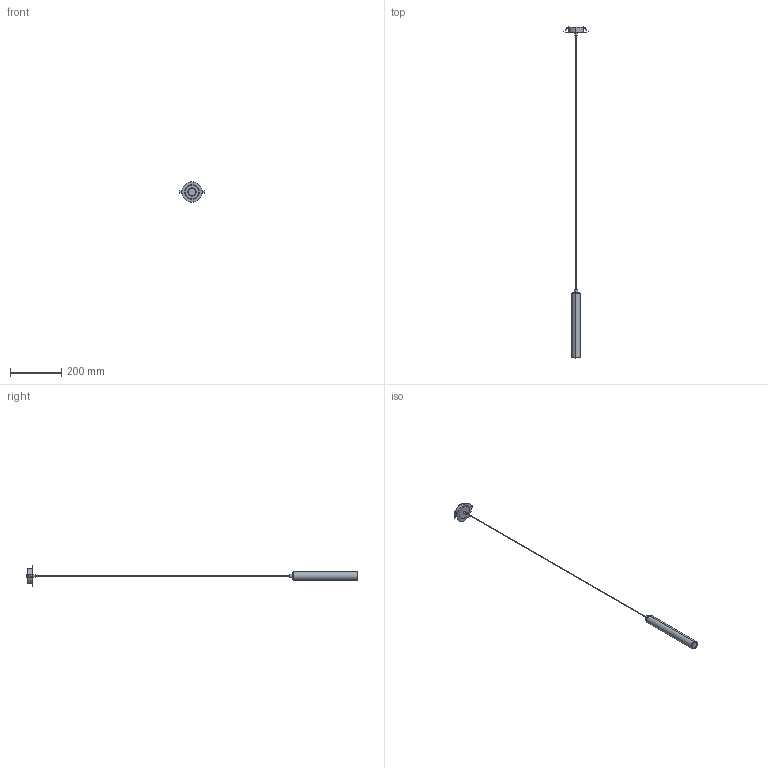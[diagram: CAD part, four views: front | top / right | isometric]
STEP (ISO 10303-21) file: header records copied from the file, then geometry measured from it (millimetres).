
FILE_DESCRIPTION (( 'STEP AP214' ), '1' );
FILE_NAME ('MIKU_empotrable.STEP', '2026-04-27T15:29:46', ( '' ), ( '' ), 'SwSTEP 2.0', 'SolidWorks 2023', '' );
FILE_SCHEMA (( 'AUTOMOTIVE_DESIGN' ));
Length unit declared in the file: millimetre
Products named in the file (3): MIKU_empotrable; MIKU_CUERPO; EP1279_79
Assembly tree (2 placements, depth 2):
  MIKU_empotrable
    MIKU_CUERPO
    EP1279_79
Bounding box: 100.36 x 1290.1 x 79 mm (x, y, z)
Volume: 72377.4 mm3; surface area: 79662.1 mm2
Topology: 8 solids, 8 shells, 120 faces, 288 edges, 190 vertices
Faces by surface type: plane 62, cylinder 52, torus 4, bspline 2
Entity records: 3726 total; most frequent: CARTESIAN_POINT 673, DIRECTION 642, ORIENTED_EDGE 576, EDGE_CURVE 288, AXIS2_PLACEMENT_3D 239, VERTEX_POINT 190, VECTOR 164, LINE 164
